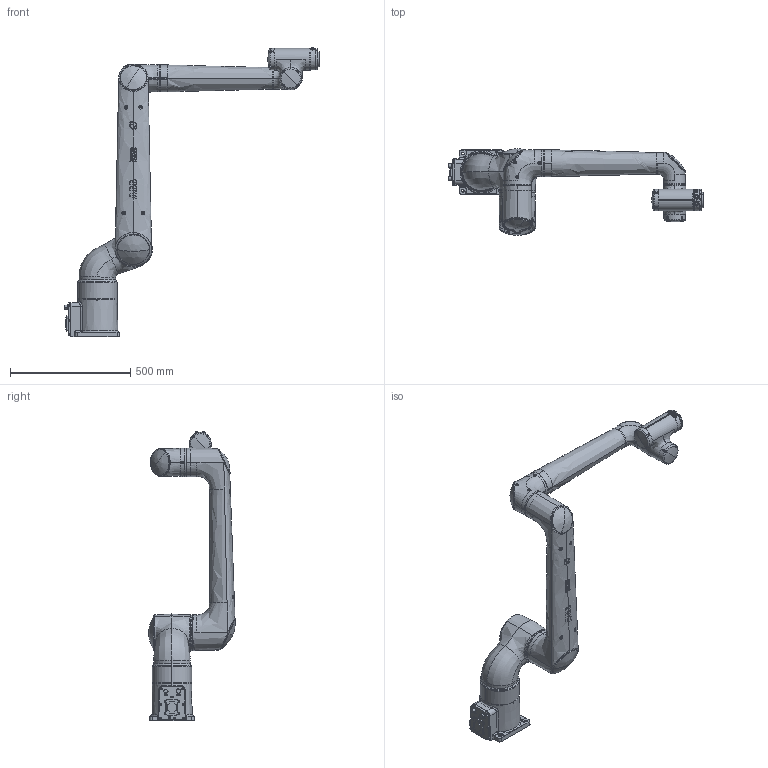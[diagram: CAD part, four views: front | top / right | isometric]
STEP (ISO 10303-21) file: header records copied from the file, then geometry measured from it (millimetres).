
FILE_DESCRIPTION (( 'STEP AP214' ), '1' );
FILE_NAME ('CRB1910_10kg-1520_OmniCore_rev00_Assembly.STEP', '2026-03-26T03:14:40', ( '' ), ( '' ), 'SwSTEP 2.0', 'SolidWorks 2022', '' );
FILE_SCHEMA (( 'AUTOMOTIVE_DESIGN' ));
Length unit declared in the file: millimetre
Products named in the file (8): CRB1910_10kg-1520_OmniCore_rev00_Link2_CAD; CRB1910_10kg-1520_OmniCore_rev00_Link6_CAD; CRB1910_10kg-1520_OmniCore_rev00_Link3_CAD; CRB1910_10kg-1520_OmniCore_rev00_Link1_CAD; CRB1910_10kg-1520_OmniCore_rev00_Link0_CAD; CRB1910_10kg-1520_OmniCore_rev00_Link4_CAD; CRB1910_10kg-1520_OmniCore_rev00_Link5_CAD; CRB1910_10kg-1520_OmniCore_rev00_Assembly
Assembly tree (7 placements, depth 2):
  CRB1910_10kg-1520_OmniCore_rev00_Assembly
    CRB1910_10kg-1520_OmniCore_rev00_Link0_CAD
    CRB1910_10kg-1520_OmniCore_rev00_Link1_CAD
    CRB1910_10kg-1520_OmniCore_rev00_Link2_CAD
    CRB1910_10kg-1520_OmniCore_rev00_Link3_CAD
    CRB1910_10kg-1520_OmniCore_rev00_Link4_CAD
    CRB1910_10kg-1520_OmniCore_rev00_Link5_CAD
    CRB1910_10kg-1520_OmniCore_rev00_Link6_CAD
Bounding box: 1061.7 x 360.84 x 1204.1 mm (x, y, z)
Volume: 31363260.2 mm3; surface area: 1251764 mm2
Topology: 7 solids, 7 shells, 2156 faces, 5533 edges, 3567 vertices
Faces by surface type: bspline 1054, plane 506, cylinder 317, cone 224, torus 51, sphere 4
Entity records: 236304 total; most frequent: CARTESIAN_POINT 190653, ORIENTED_EDGE 10978, EDGE_CURVE 5489, DIRECTION 5481, VERTEX_POINT 3567, B_SPLINE_CURVE_WITH_KNOTS 3138, EDGE_LOOP 2394, FACE_OUTER_BOUND 2156
